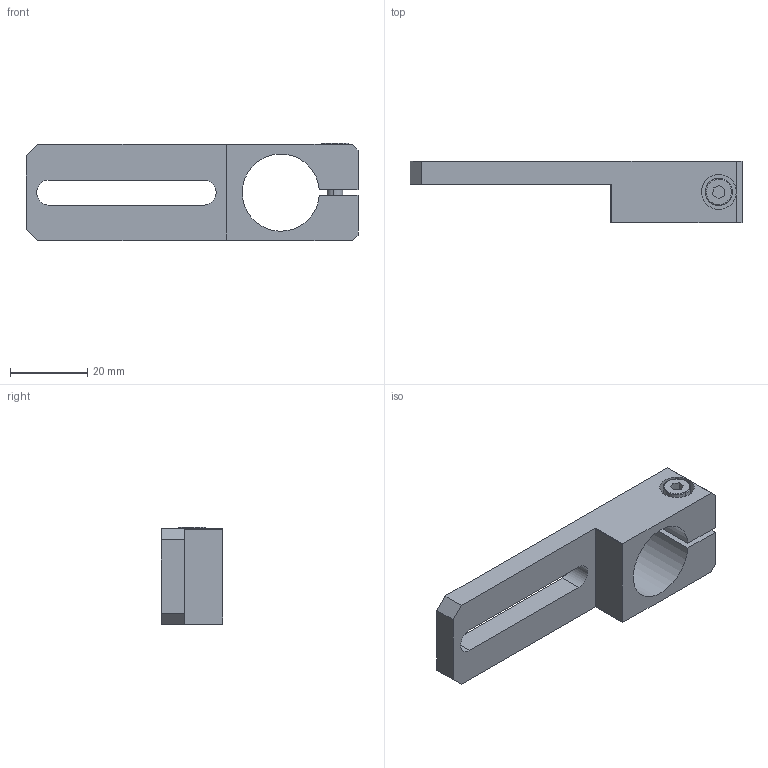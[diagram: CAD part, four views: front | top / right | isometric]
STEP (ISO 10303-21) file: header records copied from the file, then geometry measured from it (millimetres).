
FILE_DESCRIPTION (( 'STEP AP214' ), '1' );
FILE_NAME ('SCF4-2040W25T.STEP', '2023-01-17T06:02:27', ( 'Windows User' ), ( 'P R C' ), 'SwSTEP 2.0', 'SolidWorks 2019', '' );
FILE_SCHEMA (( 'AUTOMOTIVE_DESIGN' ));
Length unit declared in the file: millimetre
Products named in the file (1): SCF4-2040W25T
Bounding box: 86 x 16 x 25.3 mm (x, y, z)
Volume: 14100.2 mm3; surface area: 8216.3 mm2
Topology: 3 solids, 3 shells, 244 faces, 702 edges, 464 vertices
Faces by surface type: plane 222, cylinder 18, cone 2, bspline 2
Entity records: 10891 total; most frequent: CARTESIAN_POINT 1535, DIRECTION 1408, ORIENTED_EDGE 1404, EDGE_CURVE 702, VECTOR 474, LINE 474, AXIS2_PLACEMENT_3D 467, VERTEX_POINT 464
